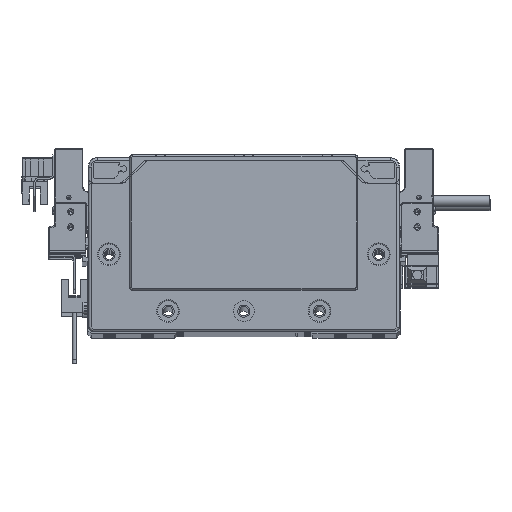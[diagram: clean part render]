
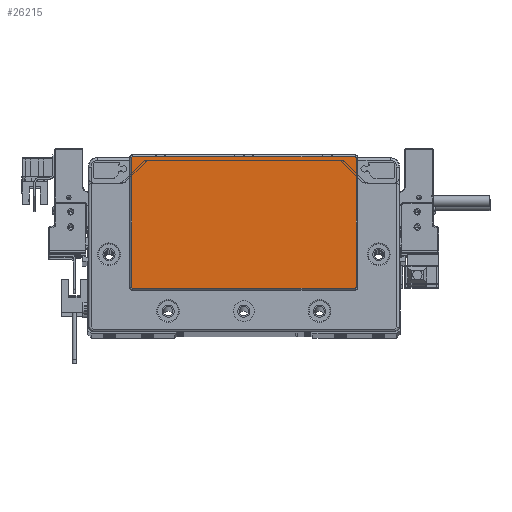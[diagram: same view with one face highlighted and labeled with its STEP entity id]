
A CAD part, top view. The second image highlights one B-rep face of the part: STEP entity #26215.
In plain terms, the highlighted planar face has unit normal (0, 0, 1) as drawn and (0, 0, -1) by its records, which use the part's own axes.
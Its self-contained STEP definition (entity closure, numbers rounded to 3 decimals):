
#68 = CARTESIAN_POINT ( 'NONE',  ( 0., 0., -2. ) ) ;
#1136 = CARTESIAN_POINT ( 'NONE',  ( 59.25, 45.3, -2. ) ) ;
#2303 = CARTESIAN_POINT ( 'NONE',  ( -58.75, -23.3, -2. ) ) ;
#2645 = AXIS2_PLACEMENT_3D ( 'NONE', #66897, #33371, #75574 ) ;
#2867 = CARTESIAN_POINT ( 'NONE',  ( -59.25, 45.3, -2. ) ) ;
#6266 = AXIS2_PLACEMENT_3D ( 'NONE', #68, #65089, #81391 ) ;
#6700 = EDGE_LOOP ( 'NONE', ( #98836, #70472, #94848, #25998, #85302, #28437, #59370, #42264 ) ) ;
#7915 = EDGE_CURVE ( 'NONE', #86713, #47766, #65711, .T. ) ;
#9138 = EDGE_CURVE ( 'NONE', #96707, #36206, #46734, .T. ) ;
#12056 = DIRECTION ( 'NONE',  ( -1., 0., 0. ) ) ;
#18103 = CARTESIAN_POINT ( 'NONE',  ( -59.25, -23.3, -2. ) ) ;
#25893 = EDGE_CURVE ( 'NONE', #36206, #39396, #60879, .T. ) ;
#25998 = ORIENTED_EDGE ( 'NONE', *, *, #9138, .T. ) ;
#26215 = ADVANCED_FACE ( 'NONE', ( #72698 ), #64043, .T. ) ;
#28437 = ORIENTED_EDGE ( 'NONE', *, *, #81229, .T. ) ;
#28703 = CIRCLE ( 'NONE', #104743, 0.5 ) ;
#29836 = CARTESIAN_POINT ( 'NONE',  ( 59.25, -23.3, -2. ) ) ;
#31994 = DIRECTION ( 'NONE',  ( 0., -1., 0. ) ) ;
#33371 = DIRECTION ( 'NONE',  ( 0., 0., -1. ) ) ;
#33659 = DIRECTION ( 'NONE',  ( -1., 0., 0. ) ) ;
#33871 = CIRCLE ( 'NONE', #2645, 0.5 ) ;
#36003 = DIRECTION ( 'NONE',  ( 0., 1., 0. ) ) ;
#36206 = VERTEX_POINT ( 'NONE', #18103 ) ;
#39396 = VERTEX_POINT ( 'NONE', #50417 ) ;
#39556 = CARTESIAN_POINT ( 'NONE',  ( 58.75, 45.3, -2. ) ) ;
#42264 = ORIENTED_EDGE ( 'NONE', *, *, #59086, .T. ) ;
#45016 = DIRECTION ( 'NONE',  ( -1., 0., 0. ) ) ;
#46481 = EDGE_CURVE ( 'NONE', #73616, #96707, #91580, .T. ) ;
#46734 = CIRCLE ( 'NONE', #98573, 0.5 ) ;
#47459 = VERTEX_POINT ( 'NONE', #1136 ) ;
#47766 = VERTEX_POINT ( 'NONE', #82885 ) ;
#48539 = VECTOR ( 'NONE', #33659, 1000. ) ;
#49307 = CARTESIAN_POINT ( 'NONE',  ( 59.25, -23.3, -2. ) ) ;
#50417 = CARTESIAN_POINT ( 'NONE',  ( -59.25, 45.3, -2. ) ) ;
#56357 = LINE ( 'NONE', #49307, #69737 ) ;
#56507 = CARTESIAN_POINT ( 'NONE',  ( 58.75, 45.8, -2. ) ) ;
#59086 = EDGE_CURVE ( 'NONE', #47766, #47459, #28703, .T. ) ;
#59370 = ORIENTED_EDGE ( 'NONE', *, *, #7915, .T. ) ;
#60879 = LINE ( 'NONE', #2867, #103900 ) ;
#61732 = VERTEX_POINT ( 'NONE', #29836 ) ;
#62868 = CIRCLE ( 'NONE', #83603, 0.5 ) ;
#63366 = DIRECTION ( 'NONE',  ( -1., 0., 0. ) ) ;
#64043 = PLANE ( 'NONE',  #6266 ) ;
#65089 = DIRECTION ( 'NONE',  ( 0., 0., -1. ) ) ;
#65711 = LINE ( 'NONE', #56507, #81615 ) ;
#66897 = CARTESIAN_POINT ( 'NONE',  ( -58.75, 45.3, -2. ) ) ;
#69737 = VECTOR ( 'NONE', #31994, 1000. ) ;
#69896 = DIRECTION ( 'NONE',  ( 0., 0., -1. ) ) ;
#70472 = ORIENTED_EDGE ( 'NONE', *, *, #78132, .T. ) ;
#72698 = FACE_OUTER_BOUND ( 'NONE', #6700, .T. ) ;
#73480 = CARTESIAN_POINT ( 'NONE',  ( -58.75, 45.8, -2. ) ) ;
#73616 = VERTEX_POINT ( 'NONE', #91038 ) ;
#75574 = DIRECTION ( 'NONE',  ( -1., 0., 0. ) ) ;
#78132 = EDGE_CURVE ( 'NONE', #61732, #73616, #62868, .T. ) ;
#81229 = EDGE_CURVE ( 'NONE', #39396, #86713, #33871, .T. ) ;
#81391 = DIRECTION ( 'NONE',  ( -1., 0., 0. ) ) ;
#81615 = VECTOR ( 'NONE', #89552, 1000. ) ;
#82885 = CARTESIAN_POINT ( 'NONE',  ( 58.75, 45.8, -2. ) ) ;
#83603 = AXIS2_PLACEMENT_3D ( 'NONE', #94272, #69896, #45016 ) ;
#85302 = ORIENTED_EDGE ( 'NONE', *, *, #25893, .T. ) ;
#86713 = VERTEX_POINT ( 'NONE', #73480 ) ;
#87745 = DIRECTION ( 'NONE',  ( 0., 0., -1. ) ) ;
#89552 = DIRECTION ( 'NONE',  ( 1., 0., 0. ) ) ;
#89966 = CARTESIAN_POINT ( 'NONE',  ( -58.75, -23.8, -2. ) ) ;
#91038 = CARTESIAN_POINT ( 'NONE',  ( 58.75, -23.8, -2. ) ) ;
#91554 = CARTESIAN_POINT ( 'NONE',  ( -58.75, -23.8, -2. ) ) ;
#91580 = LINE ( 'NONE', #89966, #48539 ) ;
#94272 = CARTESIAN_POINT ( 'NONE',  ( 58.75, -23.3, -2. ) ) ;
#94397 = DIRECTION ( 'NONE',  ( 0., 0., -1. ) ) ;
#94848 = ORIENTED_EDGE ( 'NONE', *, *, #46481, .T. ) ;
#96707 = VERTEX_POINT ( 'NONE', #91554 ) ;
#98573 = AXIS2_PLACEMENT_3D ( 'NONE', #2303, #94397, #12056 ) ;
#98836 = ORIENTED_EDGE ( 'NONE', *, *, #104485, .T. ) ;
#103900 = VECTOR ( 'NONE', #36003, 1000. ) ;
#104485 = EDGE_CURVE ( 'NONE', #47459, #61732, #56357, .T. ) ;
#104743 = AXIS2_PLACEMENT_3D ( 'NONE', #39556, #87745, #63366 ) ;
